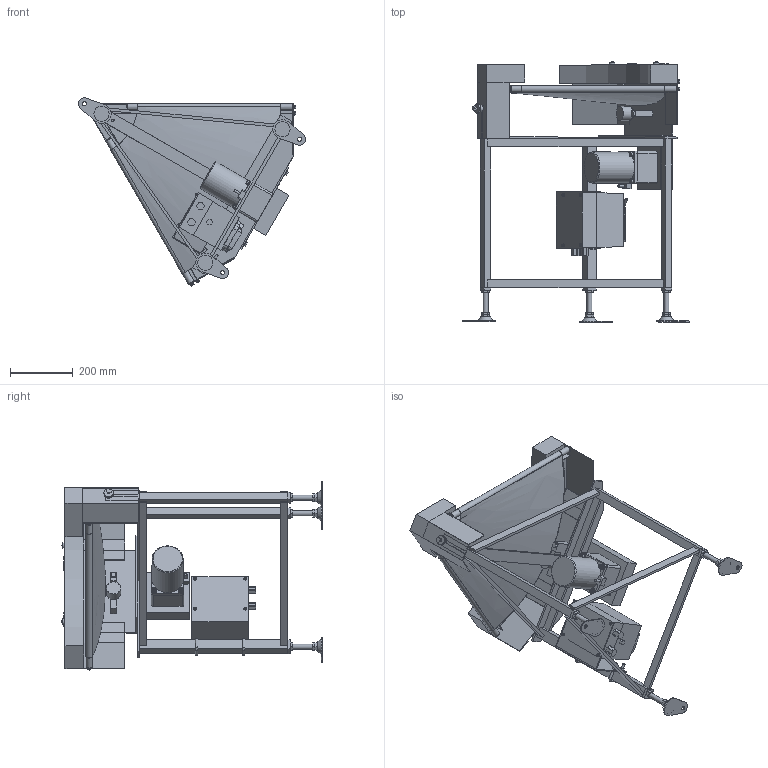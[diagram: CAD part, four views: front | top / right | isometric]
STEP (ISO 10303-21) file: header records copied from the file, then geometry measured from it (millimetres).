
FILE_DESCRIPTION (( 'STEP AP214' ), '1' );
FILE_NAME ('FFBC3-UD-309-400-60°-R-IV-60.STEP', '2023-04-18T07:25:50', ( '' ), ( '' ), 'SwSTEP 2.0', 'SolidWorks 2017', '' );
FILE_SCHEMA (( 'AUTOMOTIVE_DESIGN' ));
Length unit declared in the file: millimetre
Products named in the file (1): FFBC3-UD-309-400-60°-R-IV-60
Bounding box: 722.55 x 827.92 x 598.74 mm (x, y, z)
Volume: 16490652.1 mm3; surface area: 3005390.6 mm2
Topology: 55 solids, 56 shells, 1022 faces, 2343 edges, 1514 vertices
Faces by surface type: plane 754, cylinder 199, bspline 36, cone 19, torus 12, sphere 2
Full cylindrical faces by diameter (mm): 4 x4, 4.2 x2, 4.5 x1, 5 x4, 5.9 x4, 7 x1, 7.6 x4, 7.8 x1, 8 x16, 8.4 x4, 8.5 x8, 9 x6, 12.5 x4, 13 x11, 13.8 x1, 15 x4, 16 x9, 17 x9, 18 x4, 20 x3, 25 x1, 30 x2, 42 x1, 45 x1, 99 x1
Entity records: 46887 total; most frequent: CARTESIAN_POINT 12653, DIRECTION 4480, ORIENTED_EDGE 4328, EDGE_CURVE 2164, LINE 1580, VECTOR 1580, VERTEX_POINT 1478, AXIS2_PLACEMENT_3D 1450
